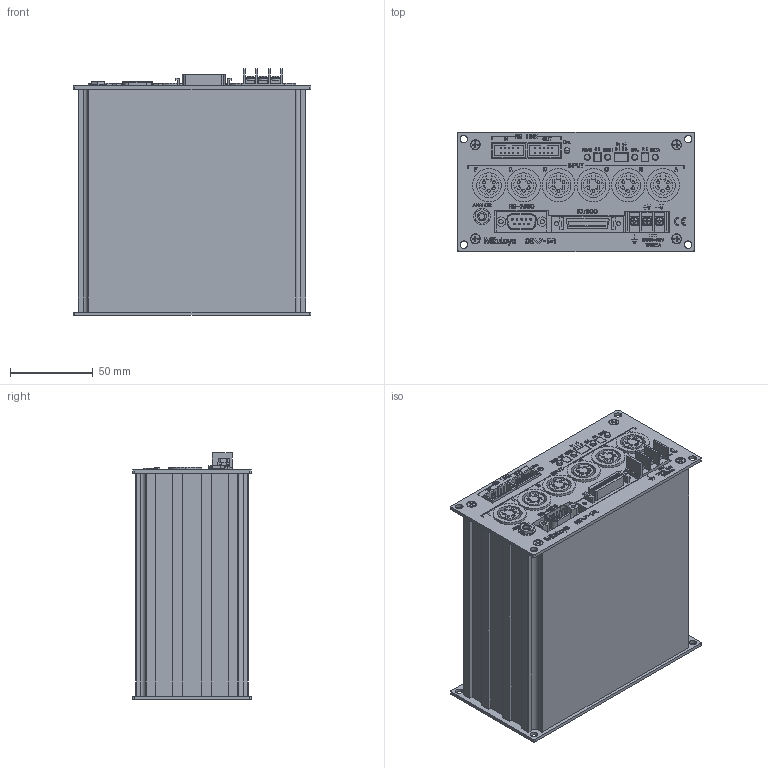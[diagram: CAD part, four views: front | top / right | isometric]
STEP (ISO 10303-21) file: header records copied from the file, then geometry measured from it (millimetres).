
FILE_DESCRIPTION(('Creo Elements/Direct Modeling STEP Export'),'2;1');
FILE_NAME('EV-16A_3D.stp','2017-08-22T15:47:43',(''),(''),'Creo Elements/Direct Modeling STEP processor for AP214 (Solid Model)','Creo Elements/Direct Modeling 18.1C 24-Feb-2013 (C) Parametric Technology GmbH','');
FILE_SCHEMA(('AUTOMOTIVE_DESIGN { 1 0 10303 214 1 1 1 1 }'));
Products named in the file (1): 519-355_EV-16A
Bounding box: 144 x 72 x 149.5 mm (x, y, z)
Volume: 1271232.9 mm3; surface area: 98719.2 mm2
Topology: 1 solids, 9 shells, 4372 faces, 11900 edges, 7825 vertices
Faces by surface type: plane 3939, cylinder 295, extrusion 64, cone 38, torus 28, sphere 8
Entity records: 135973 total; most frequent: CARTESIAN_POINT 24609, ORIENTED_EDGE 23798, DIRECTION 20248, EDGE_CURVE 11898, VECTOR 10916, LINE 10892, VERTEX_POINT 7825, EDGE_LOOP 4685
